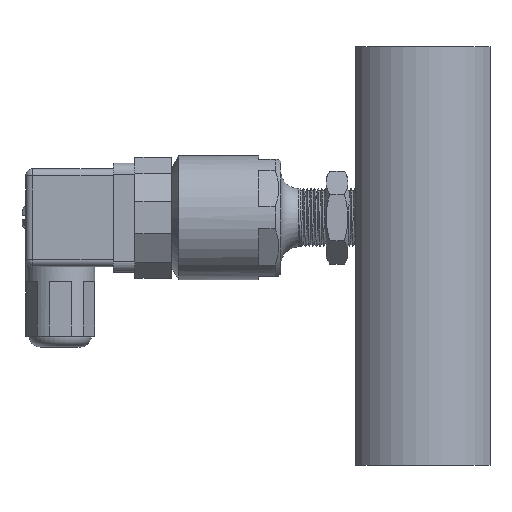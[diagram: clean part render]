
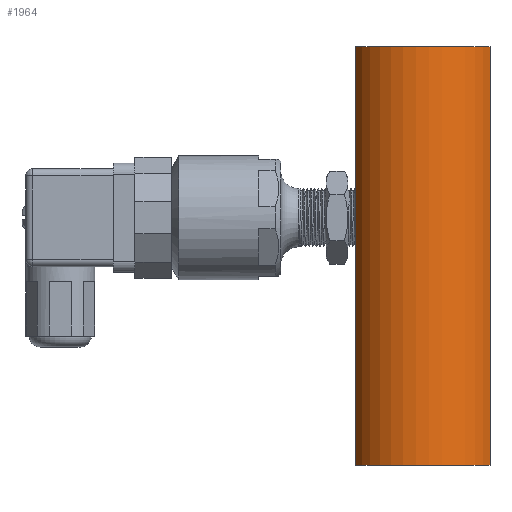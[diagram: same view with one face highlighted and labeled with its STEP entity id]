
A CAD part, left-side view. The second image highlights one B-rep face of the part: STEP entity #1964.
In plain terms, the highlighted cylindrical face has radius 20.5 mm (diameter 41 mm), a partial arc.
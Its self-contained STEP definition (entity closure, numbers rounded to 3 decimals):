
#278=CYLINDRICAL_SURFACE('',#6883,20.5);
#339=FACE_OUTER_BOUND('',#2657,.T.);
#675=LINE('',#9149,#1319);
#676=LINE('',#9154,#1320);
#1319=VECTOR('',#7432,1.);
#1320=VECTOR('',#7435,1.);
#1964=ADVANCED_FACE('',(#339),#278,.T.);
#2657=EDGE_LOOP('',(#3068,#3069,#3070,#3071));
#3068=ORIENTED_EDGE('',*,*,#5689,.T.);
#3069=ORIENTED_EDGE('',*,*,#5690,.T.);
#3070=ORIENTED_EDGE('',*,*,#5691,.T.);
#3071=ORIENTED_EDGE('',*,*,#5692,.T.);
#5034=VERTEX_POINT('',#9150);
#5035=VERTEX_POINT('',#9151);
#5036=VERTEX_POINT('',#9153);
#5037=VERTEX_POINT('',#9155);
#5689=EDGE_CURVE('',#5034,#5035,#675,.T.);
#5690=EDGE_CURVE('',#5035,#5036,#6670,.T.);
#5691=EDGE_CURVE('',#5036,#5037,#676,.T.);
#5692=EDGE_CURVE('',#5037,#5034,#6671,.T.);
#6670=CIRCLE('',#6881,20.5);
#6671=CIRCLE('',#6882,20.5);
#6881=AXIS2_PLACEMENT_3D('',#9152,#7433,#7434);
#6882=AXIS2_PLACEMENT_3D('',#9156,#7436,#7437);
#6883=AXIS2_PLACEMENT_3D('',#9157,#7438,#7439);
#7432=DIRECTION('',(0.,0.,-1.));
#7433=DIRECTION('',(0.,0.,1.));
#7434=DIRECTION('',(-1.,0.,0.));
#7435=DIRECTION('',(0.,0.,1.));
#7436=DIRECTION('',(0.,0.,-1.));
#7437=DIRECTION('',(1.,0.,0.));
#7438=DIRECTION('',(0.,0.,-1.));
#7439=DIRECTION('',(-1.,0.,0.));
#9149=CARTESIAN_POINT('',(-8.832,18.5,43.5));
#9150=CARTESIAN_POINT('',(-8.832,18.5,49.5));
#9151=CARTESIAN_POINT('',(-8.832,18.5,-65.5));
#9152=CARTESIAN_POINT('',(0.,0.,-65.5));
#9153=CARTESIAN_POINT('',(-8.832,-18.5,-65.5));
#9154=CARTESIAN_POINT('',(-8.832,-18.5,43.5));
#9155=CARTESIAN_POINT('',(-8.832,-18.5,49.5));
#9156=CARTESIAN_POINT('',(0.,0.,49.5));
#9157=CARTESIAN_POINT('',(0.,0.,43.5));
